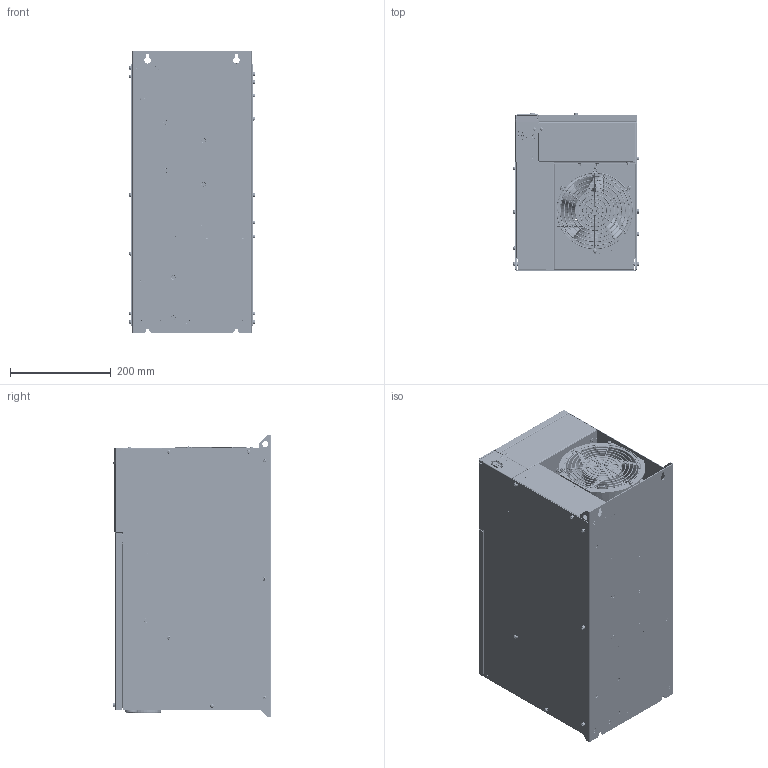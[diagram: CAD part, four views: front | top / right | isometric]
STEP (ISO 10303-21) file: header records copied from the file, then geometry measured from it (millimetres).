
FILE_DESCRIPTION((''),'2;1');
FILE_NAME('0-SD700-121D-0_ASM','2022-05-27T',('v0214'),(''),'CREO PARAMETRIC BY PTC INC, 2016260','CREO PARAMETRIC BY PTC INC, 2016260','');
FILE_SCHEMA(('AP203_CONFIGURATION_CONTROLLED_3D_DESIGN_OF_MECHANICAL_PARTS_AND_ASSEMBLIES_MIM_LF { 1 0 10303 403 2 1 2 }'));
Products named in the file (171): 77_155_6800_400V-1050010017; JNA440; JNA440GB; JNA440_C_6; M8_GB6170; JNA440_ASM; 77; F17251N29A220-1390020013; LOOP-22; PY172-9HA; LOOP-60X90; R47UF_1200V-1060010007; AC300-T3-075GA-D_ASM; AC300-T3-075GA-A001P; BSO-3_5M3-8; AC300-T3-075GA-A001_ASM; AC300-T3-075GA-A002P; AC300-T3-075GA-A002_ASM; AC300-T3-075GA-A003P; AC300-T3-075GA-A003_ASM; AC300-T3-075GA-A004_ASM; AC300-T3-075GA-A005_ASM; S-M6-1; AC300-T3-075GA-A006_ASM; AC300-T3-075GA-A007_ASM; AC300-T3-075GA-A008_ASM; AC300-T3-075GA-A009P; AC300-T3-075GA-A009_ASM; S-M6-2; AC300-T3-075GA-A010_ASM; AC300-T3-075GA-A011_ASM; AC300-T3-075GA-A012P; AC300-T3-075GA-A012_ASM; AC300-T3-075GA-A013_ASM; AC300-T3-075GA-A014P; AC300-T3-075GA-A014_ASM; AC300-T3-075GA-A015P; AC300-T3-075GA-A015_ASM; AC300-T3-075GA-A016P; AC300-T3-075GA-A016_ASM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
Assembly tree (444 placements, depth 7):
  0-SD700-121D-0_ASM
    AC300-T3-075GA-D_ASM
      77_155_6800_400V-1050010017  x5
      JNA440_ASM  x3
        JNA440
        JNA440GB
        JNA440_C_6
        M8_GB6170
      77  x4
      F17251N29A220-1390020013
      LOOP-22
      PY172-9HA
      LOOP-60X90  x2
      R47UF_1200V-1060010007
    AC300-T3-075GA-A_ASM
      AC300-T3-075GA-A001_ASM
        AC300-T3-075GA-A001P
        BSO-3_5M3-8
      AC300-T3-075GA-A002_ASM
        AC300-T3-075GA-A002P
        BSO-3_5M3-8
      AC300-T3-075GA-A003_ASM
        AC300-T3-075GA-A003P
        BSO-3_5M3-8
      AC300-T3-075GA-A004_ASM
      AC300-T3-075GA-A005_ASM
      AC300-T3-075GA-A006_ASM
        S-M6-1
      AC300-T3-075GA-A007_ASM
      AC300-T3-075GA-A008_ASM
      AC300-T3-075GA-A009_ASM
        AC300-T3-075GA-A009P
      AC300-T3-075GA-A010_ASM
        S-M6-2
      AC300-T3-075GA-A011_ASM
        S-M6-2
      AC300-T3-075GA-A012_ASM
        AC300-T3-075GA-A012P
      AC300-T3-075GA-A013_ASM
        S-M6-2  x2
      AC300-T3-075GA-A014_ASM
        AC300-T3-075GA-A014P
      AC300-T3-075GA-A015_ASM
        AC300-T3-075GA-A015P
        S-M6-2
      AC300-T3-075GA-A016_ASM
        AC300-T3-075GA-A016P
      AC300-T3-075GA-A017_ASM
        AC300-T3-075GA-A017P
    SD700-121D-P_ASM
      SD700-121D-P001_ASM
        SD700-121D-P002_ASM
          SD700-121D-P002P
          S-M4-2  x6
        SD700-121D-P003_ASM
          SD700-121D-P003P
          S-M4-2  x16
          BSO-3_5M3-20  x2
          TPS-4-10
          S-M5-2  x2
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Bounding box: 249.38 x 314.69 x 558 mm (x, y, z)
Volume: 6436362.9 mm3; surface area: 3331903.1 mm2
Topology: 418 solids, 430 shells, 24282 faces, 66262 edges, 45880 vertices
Faces by surface type: plane 16791, cylinder 4920, cone 1308, torus 676, bspline 298, sphere 277, extrusion 12
Entity records: 510914 total; most frequent: CARTESIAN_POINT 81559, DIRECTION 61210, ORIENTED_EDGE 57216, EDGE_CURVE 28608, PRESENTATION_STYLE_ASSIGNMENT 27802, STYLED_ITEM 26749, CURVE_STYLE 26638, VECTOR 25606
